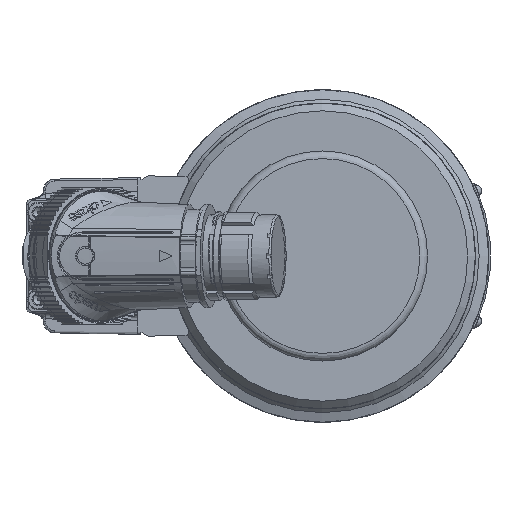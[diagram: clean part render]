
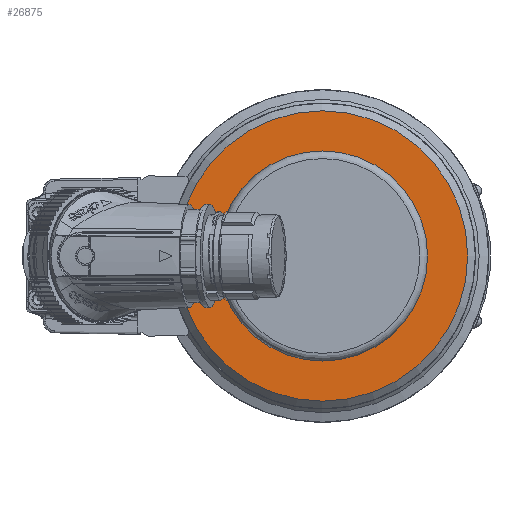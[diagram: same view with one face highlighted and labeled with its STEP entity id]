
A CAD part, left-side view. The second image highlights one B-rep face of the part: STEP entity #26875.
In plain terms, the highlighted planar face has unit normal (-1, 0, 0).
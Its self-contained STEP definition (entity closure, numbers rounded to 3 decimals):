
#49 = VERTEX_POINT ( 'NONE', #11146 ) ;
#4615 = CARTESIAN_POINT ( 'NONE',  ( -392.7, 0., 0. ) ) ;
#7093 = CARTESIAN_POINT ( 'NONE',  ( -392.7, 0., 0. ) ) ;
#8163 = FACE_BOUND ( 'NONE', #27727, .T. ) ;
#8321 = FACE_OUTER_BOUND ( 'NONE', #21651, .T. ) ;
#11146 = CARTESIAN_POINT ( 'NONE',  ( -392.7, 0., 37.999 ) ) ;
#11714 = DIRECTION ( 'NONE',  ( 0., 0., -1. ) ) ;
#12166 = PLANE ( 'NONE',  #28071 ) ;
#14140 = DIRECTION ( 'NONE',  ( 0., 0., 1. ) ) ;
#21651 = EDGE_LOOP ( 'NONE', ( #41618 ) ) ;
#23201 = CIRCLE ( 'NONE', #39193, 37.999 ) ;
#26323 = CARTESIAN_POINT ( 'NONE',  ( -392.7, 0., -27.5 ) ) ;
#26875 = ADVANCED_FACE ( 'NONE', ( #8321, #8163 ), #12166, .T. ) ;
#27727 = EDGE_LOOP ( 'NONE', ( #87357 ) ) ;
#28071 = AXIS2_PLACEMENT_3D ( 'NONE', #33128, #82150, #40029 ) ;
#33128 = CARTESIAN_POINT ( 'NONE',  ( -392.7, 27.5, 0. ) ) ;
#39193 = AXIS2_PLACEMENT_3D ( 'NONE', #7093, #55857, #14140 ) ;
#40029 = DIRECTION ( 'NONE',  ( 0., 0., 1. ) ) ;
#41618 = ORIENTED_EDGE ( 'NONE', *, *, #52900, .T. ) ;
#41746 = AXIS2_PLACEMENT_3D ( 'NONE', #4615, #53346, #11714 ) ;
#47944 = VERTEX_POINT ( 'NONE', #26323 ) ;
#52900 = EDGE_CURVE ( 'NONE', #49, #49, #23201, .T. ) ;
#53346 = DIRECTION ( 'NONE',  ( 1., 0., 0. ) ) ;
#53635 = CIRCLE ( 'NONE', #41746, 27.5 ) ;
#55857 = DIRECTION ( 'NONE',  ( -1., 0., 0. ) ) ;
#64271 = EDGE_CURVE ( 'NONE', #47944, #47944, #53635, .T. ) ;
#82150 = DIRECTION ( 'NONE',  ( -1., 0., 0. ) ) ;
#87357 = ORIENTED_EDGE ( 'NONE', *, *, #64271, .T. ) ;
